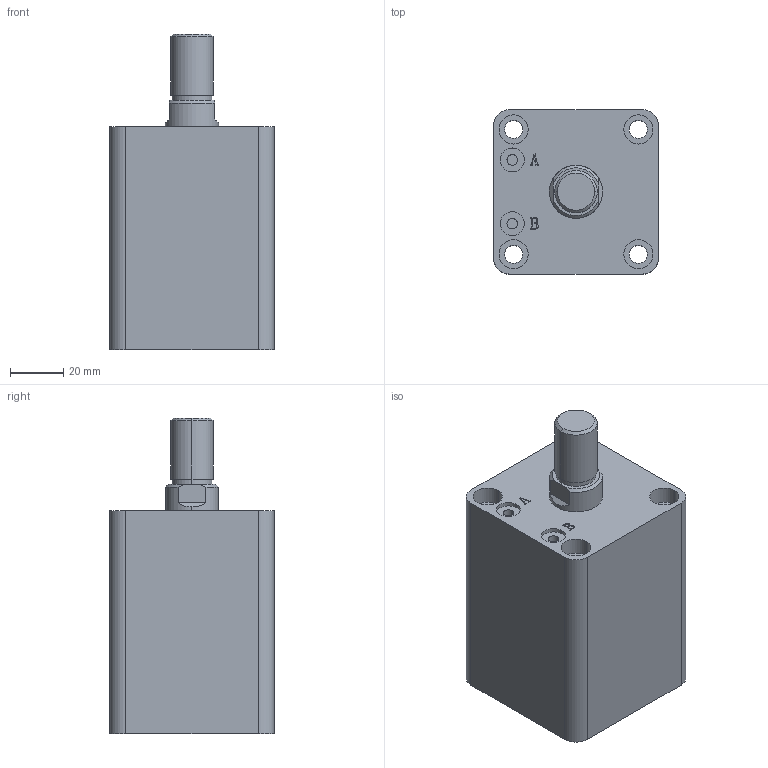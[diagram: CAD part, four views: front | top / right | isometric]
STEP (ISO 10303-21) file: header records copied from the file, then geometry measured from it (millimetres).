
FILE_DESCRIPTION (( 'STEP AP203' ), '1' );
FILE_NAME ('HTB-SDMA32-30W.STEP', '2019-10-07T11:39:52', ( '微软用户' ), ( '微软中国' ), 'SwSTEP 2.0', 'SolidWorks 2012', '' );
FILE_SCHEMA (( 'CONFIG_CONTROL_DESIGN' ));
Length unit declared in the file: millimetre
Products named in the file (3): HTB-SDMA32-30W; HTB-SDMA32-30W活塞杆; HTB-SDMA32-30掛极
Assembly tree (2 placements, depth 2):
  HTB-SDMA32-30W
    HTB-SDMA32-30掛极
    HTB-SDMA32-30W活塞杆
Bounding box: 62 x 62 x 119 mm (x, y, z)
Volume: 297778.1 mm3; surface area: 51746.9 mm2
Topology: 2 solids, 2 shells, 141 faces, 337 edges, 222 vertices
Faces by surface type: plane 67, cylinder 48, bspline 16, torus 6, cone 4
Entity records: 5176 total; most frequent: CARTESIAN_POINT 1593, ORIENTED_EDGE 674, DIRECTION 669, EDGE_CURVE 337, AXIS2_PLACEMENT_3D 242, VERTEX_POINT 222, VECTOR 185, LINE 185
